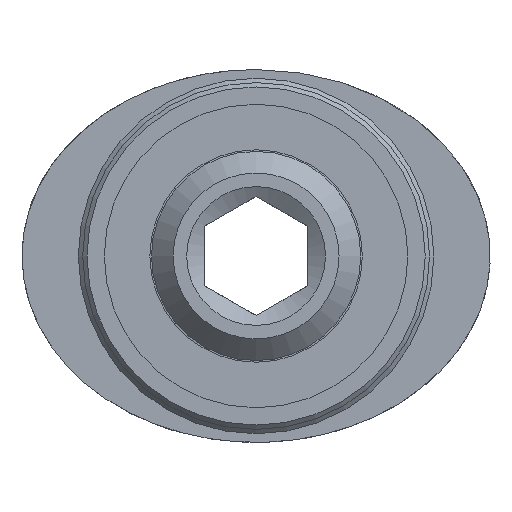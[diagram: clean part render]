
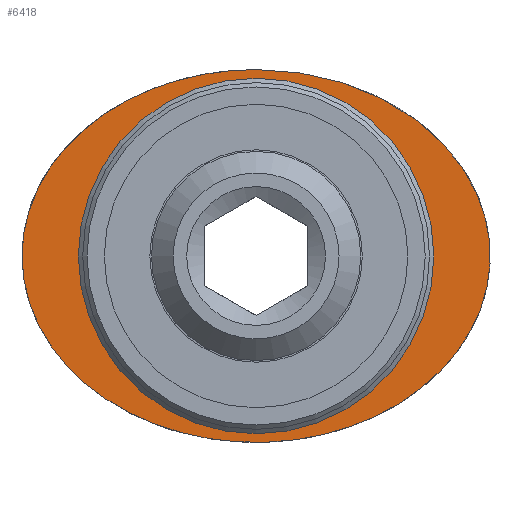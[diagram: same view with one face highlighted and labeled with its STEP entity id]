
A CAD part, front view. The second image highlights one B-rep face of the part: STEP entity #6418.
In plain terms, the highlighted planar face has unit normal (0, -1, 0) as drawn and (-1, 0, 0) by its records, which use the part's own axes.
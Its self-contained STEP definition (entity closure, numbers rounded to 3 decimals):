
#4423=CARTESIAN_POINT('',(-1.6,0.,-4.3));
#4424=VERTEX_POINT('',#4423);
#4425=CARTESIAN_POINT('',(-1.6,0.0,0.));
#4426=DIRECTION('',(1.0,0.0,0.0));
#4427=DIRECTION('',(0.0,-1.0,0.0));
#4428=AXIS2_PLACEMENT_3D('',#4425,#4426,#4427);
#4429=ELLIPSE('',#4428,5.4,4.3);
#4430=EDGE_CURVE('',#4424,#4424,#4429,.T.);
#6383=CARTESIAN_POINT('',(-1.6,0.,2.85));
#6384=VERTEX_POINT('',#6383);
#6385=CARTESIAN_POINT('',(-1.6,0.0,0.));
#6386=DIRECTION('',(-1.0,0.0,0.0));
#6387=DIRECTION('',(0.0,0.0,-1.0));
#6388=AXIS2_PLACEMENT_3D('',#6385,#6386,#6387);
#6389=CIRCLE('',#6388,2.85);
#6390=EDGE_CURVE('',#6384,#6384,#6389,.T.);
#6407=CARTESIAN_POINT('',(-1.6,0.0,3.525));
#6408=DIRECTION('',(-1.0,0.0,0.0));
#6409=DIRECTION('',(0.0,0.0,1.0));
#6410=AXIS2_PLACEMENT_3D('',#6407,#6408,#6409);
#6411=PLANE('',#6410);
#6412=ORIENTED_EDGE('',*,*,#4430,.F.);
#6413=EDGE_LOOP('',(#6412));
#6414=FACE_OUTER_BOUND('',#6413,.T.);
#6415=ORIENTED_EDGE('',*,*,#6390,.F.);
#6416=EDGE_LOOP('',(#6415));
#6417=FACE_BOUND('',#6416,.T.);
#6418=ADVANCED_FACE('',(#6414,#6417),#6411,.T.);
